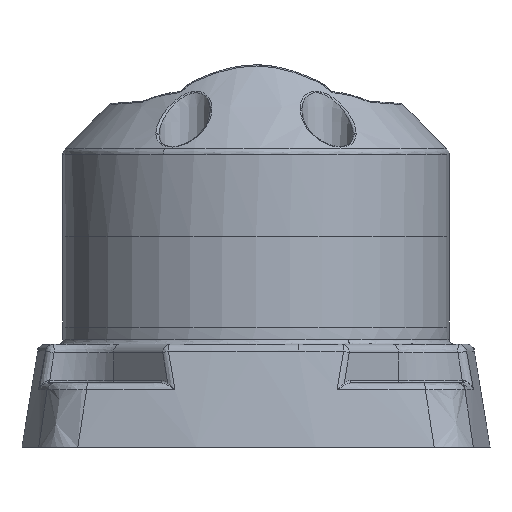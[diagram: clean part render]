
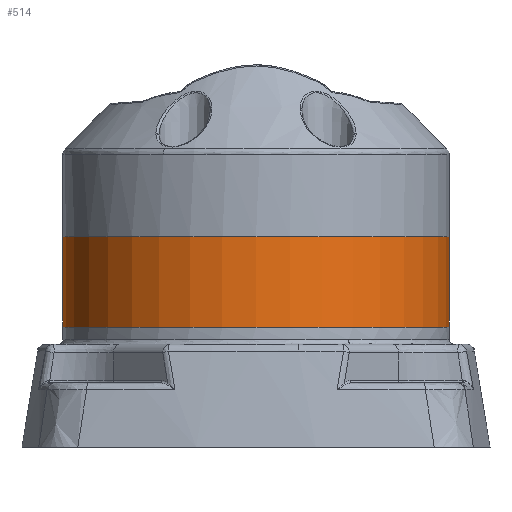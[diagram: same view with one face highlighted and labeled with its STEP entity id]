
A CAD part, front view. The second image highlights one B-rep face of the part: STEP entity #514.
In plain terms, the highlighted cylindrical face has radius 45 mm (diameter 90 mm), a partial arc.
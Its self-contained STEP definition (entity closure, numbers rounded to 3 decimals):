
#180 = CARTESIAN_POINT ( 'NONE',  ( 0., 0., -630. ) ) ;
#514 = ADVANCED_FACE ( 'NONE', ( #8994 ), #3027, .T. ) ;
#2115 = DIRECTION ( 'NONE',  ( -1., 0., 0. ) ) ;
#2301 = ORIENTED_EDGE ( 'NONE', *, *, #18768, .F. ) ;
#2313 = VECTOR ( 'NONE', #7773, 1000. ) ;
#3027 = CYLINDRICAL_SURFACE ( 'NONE', #9262, 45. ) ;
#3155 = ORIENTED_EDGE ( 'NONE', *, *, #22577, .T. ) ;
#3746 = CARTESIAN_POINT ( 'NONE',  ( 45., 0., -640.5 ) ) ;
#4084 = VERTEX_POINT ( 'NONE', #13769 ) ;
#4244 = AXIS2_PLACEMENT_3D ( 'NONE', #23568, #11826, #25542 ) ;
#4521 = DIRECTION ( 'NONE',  ( 0., 0., -1. ) ) ;
#5408 = EDGE_CURVE ( 'NONE', #4084, #5473, #12922, .T. ) ;
#5473 = VERTEX_POINT ( 'NONE', #9876 ) ;
#7773 = DIRECTION ( 'NONE',  ( 0., 0., -1. ) ) ;
#8963 = ORIENTED_EDGE ( 'NONE', *, *, #5408, .F. ) ;
#8994 = FACE_OUTER_BOUND ( 'NONE', #13311, .T. ) ;
#9206 = VERTEX_POINT ( 'NONE', #24710 ) ;
#9262 = AXIS2_PLACEMENT_3D ( 'NONE', #19736, #19494, #19904 ) ;
#9876 = CARTESIAN_POINT ( 'NONE',  ( 45., 0., -651. ) ) ;
#11826 = DIRECTION ( 'NONE',  ( 0., 0., 1. ) ) ;
#12498 = CARTESIAN_POINT ( 'NONE',  ( -45., 0., -640.5 ) ) ;
#12758 = VECTOR ( 'NONE', #4521, 1000. ) ;
#12922 = LINE ( 'NONE', #3746, #2313 ) ;
#13311 = EDGE_LOOP ( 'NONE', ( #8963, #2301, #18443, #3155 ) ) ;
#13368 = LINE ( 'NONE', #12498, #12758 ) ;
#13769 = CARTESIAN_POINT ( 'NONE',  ( 45., 0., -630. ) ) ;
#14027 = DIRECTION ( 'NONE',  ( 0., 0., 1. ) ) ;
#15843 = CIRCLE ( 'NONE', #4244, 45. ) ;
#18443 = ORIENTED_EDGE ( 'NONE', *, *, #23930, .T. ) ;
#18768 = EDGE_CURVE ( 'NONE', #9206, #4084, #23099, .T. ) ;
#19494 = DIRECTION ( 'NONE',  ( 0., 0., -1. ) ) ;
#19736 = CARTESIAN_POINT ( 'NONE',  ( 0., 0., -640.5 ) ) ;
#19775 = AXIS2_PLACEMENT_3D ( 'NONE', #180, #14027, #2115 ) ;
#19904 = DIRECTION ( 'NONE',  ( -1., 0., 0. ) ) ;
#22123 = CARTESIAN_POINT ( 'NONE',  ( -45., 0., -651. ) ) ;
#22227 = VERTEX_POINT ( 'NONE', #22123 ) ;
#22577 = EDGE_CURVE ( 'NONE', #22227, #5473, #15843, .T. ) ;
#23099 = CIRCLE ( 'NONE', #19775, 45. ) ;
#23568 = CARTESIAN_POINT ( 'NONE',  ( 0., 0., -651. ) ) ;
#23930 = EDGE_CURVE ( 'NONE', #9206, #22227, #13368, .T. ) ;
#24710 = CARTESIAN_POINT ( 'NONE',  ( -45., 0., -630. ) ) ;
#25542 = DIRECTION ( 'NONE',  ( -1., 0., 0. ) ) ;
